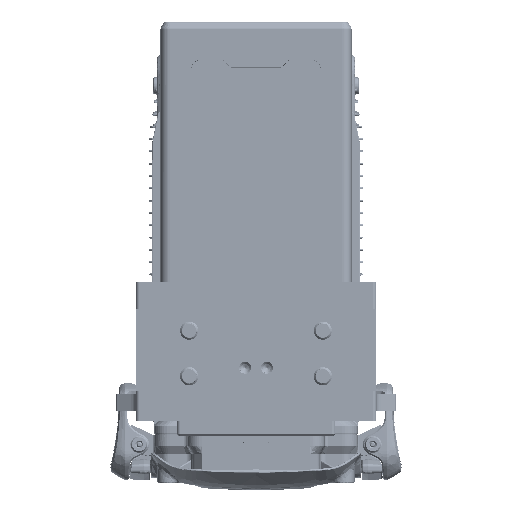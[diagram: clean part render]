
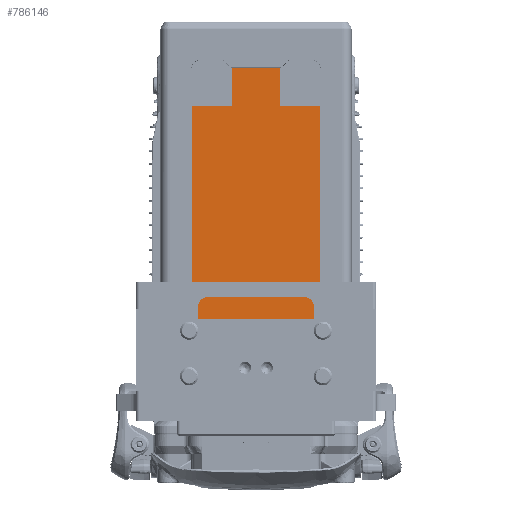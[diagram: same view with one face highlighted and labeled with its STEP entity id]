
A CAD part, front view. The second image highlights one B-rep face of the part: STEP entity #786146.
In plain terms, the highlighted planar face has unit normal (0, -1, 0) as drawn and (0, 1, 0) by its records, which use the part's own axes.
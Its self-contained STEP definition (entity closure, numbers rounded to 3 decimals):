
#785479=DIRECTION('',(0.,0.,1.));
#785480=VECTOR('',#785479,84.8);
#785481=CARTESIAN_POINT('',(-21.05,0.25,-51.));
#785482=LINE('',#785481,#785480);
#785636=DIRECTION('',(-1.,0.,0.));
#785637=VECTOR('',#785636,13.);
#785638=CARTESIAN_POINT('',(-8.05,0.25,33.8));
#785639=LINE('',#785638,#785637);
#785643=CARTESIAN_POINT('',(-18.25,0.25,-51.));
#785644=DIRECTION('',(0.,-1.,0.));
#785645=DIRECTION('',(-1.,0.,0.));
#785646=AXIS2_PLACEMENT_3D('',#785643,#785644,#785645);
#785651=DIRECTION('',(1.,0.,0.));
#785652=VECTOR('',#785651,36.5);
#785653=CARTESIAN_POINT('',(-18.25,0.25,-53.8));
#785654=LINE('',#785653,#785652);
#785658=CARTESIAN_POINT('',(18.25,0.25,-51.));
#785659=DIRECTION('',(0.,-1.,0.));
#785660=DIRECTION('',(0.,0.,-1.));
#785661=AXIS2_PLACEMENT_3D('',#785658,#785659,#785660);
#785666=DIRECTION('',(0.,0.,1.));
#785667=VECTOR('',#785666,84.8);
#785668=CARTESIAN_POINT('',(21.05,0.25,-51.));
#785669=LINE('',#785668,#785667);
#785673=DIRECTION('',(0.,0.,1.));
#785674=VECTOR('',#785673,12.55);
#785675=CARTESIAN_POINT('',(8.05,0.25,33.8));
#785676=LINE('',#785675,#785674);
#785680=CARTESIAN_POINT('',(7.868,0.25,47.94));
#785681=DIRECTION('',(0.,1.,0.));
#785682=DIRECTION('',(0.114,0.,-0.993));
#785683=AXIS2_PLACEMENT_3D('',#785680,#785681,#785682);
#785688=DIRECTION('',(-1.,0.,0.));
#785689=VECTOR('',#785688,15.735);
#785690=CARTESIAN_POINT('',(7.868,0.25,46.34));
#785691=LINE('',#785690,#785689);
#785695=CARTESIAN_POINT('',(-7.868,0.25,47.94));
#785696=DIRECTION('',(0.,1.,0.));
#785697=DIRECTION('',(0.,0.,-1.));
#785698=AXIS2_PLACEMENT_3D('',#785695,#785696,#785697);
#785703=DIRECTION('',(0.,0.,1.));
#785704=VECTOR('',#785703,12.55);
#785705=CARTESIAN_POINT('',(-8.05,0.25,33.8));
#785706=LINE('',#785705,#785704);
#785759=DIRECTION('',(1.,0.,0.));
#785760=VECTOR('',#785759,13.);
#785761=CARTESIAN_POINT('',(8.05,0.25,33.8));
#785762=LINE('',#785761,#785760);
#785837=CARTESIAN_POINT('',(-21.05,0.25,-51.));
#785838=VERTEX_POINT('',#785837);
#785839=CARTESIAN_POINT('',(-21.05,0.25,33.8));
#785840=VERTEX_POINT('',#785839);
#785841=CARTESIAN_POINT('',(-18.25,0.25,-53.8));
#785842=VERTEX_POINT('',#785841);
#785843=CARTESIAN_POINT('',(18.25,0.25,-53.8));
#785844=VERTEX_POINT('',#785843);
#785845=CARTESIAN_POINT('',(21.05,0.25,-51.));
#785846=VERTEX_POINT('',#785845);
#785847=CARTESIAN_POINT('',(21.05,0.25,33.8));
#785848=VERTEX_POINT('',#785847);
#785849=CARTESIAN_POINT('',(8.05,0.25,33.8));
#785850=VERTEX_POINT('',#785849);
#785851=CARTESIAN_POINT('',(-8.05,0.25,33.8));
#785852=CARTESIAN_POINT('',(-8.05,0.25,46.35));
#785853=VERTEX_POINT('',#785851);
#785854=VERTEX_POINT('',#785852);
#785855=CARTESIAN_POINT('',(8.05,0.25,46.35));
#785856=VERTEX_POINT('',#785855);
#785857=CARTESIAN_POINT('',(7.868,0.25,46.34));
#785858=VERTEX_POINT('',#785857);
#785859=CARTESIAN_POINT('',(-7.868,0.25,46.34));
#785860=VERTEX_POINT('',#785859);
#786122=CARTESIAN_POINT('',(0.,0.25,0.));
#786123=DIRECTION('',(0.,1.,0.));
#786124=DIRECTION('',(1.,0.,0.));
#786125=AXIS2_PLACEMENT_3D('',#786122,#786123,#786124);
#786126=PLANE('',#786125);
#786128=ORIENTED_EDGE('',*,*,#786127,.F.);
#786130=ORIENTED_EDGE('',*,*,#786129,.T.);
#786131=ORIENTED_EDGE('',*,*,#785949,.F.);
#786132=ORIENTED_EDGE('',*,*,#785964,.T.);
#786133=ORIENTED_EDGE('',*,*,#785977,.T.);
#786134=ORIENTED_EDGE('',*,*,#785992,.T.);
#786135=ORIENTED_EDGE('',*,*,#786007,.T.);
#786137=ORIENTED_EDGE('',*,*,#786136,.F.);
#786139=ORIENTED_EDGE('',*,*,#786138,.T.);
#786140=ORIENTED_EDGE('',*,*,#786101,.T.);
#786141=ORIENTED_EDGE('',*,*,#786113,.T.);
#786143=ORIENTED_EDGE('',*,*,#786142,.T.);
#786144=EDGE_LOOP('',(#786128,#786130,#786131,#786132,#786133,#786134,#786135,
#786137,#786139,#786140,#786141,#786143));
#786145=FACE_OUTER_BOUND('',#786144,.F.);
#786146=ADVANCED_FACE('',(#786145),#786126,.T.);
#785647=CIRCLE('',#785646,2.8);
#785662=CIRCLE('',#785661,2.8);
#785684=CIRCLE('',#785683,1.6);
#785699=CIRCLE('',#785698,1.6);
#785949=EDGE_CURVE('',#785838,#785840,#785482,.T.);
#785964=EDGE_CURVE('',#785838,#785842,#785647,.T.);
#785977=EDGE_CURVE('',#785842,#785844,#785654,.T.);
#785992=EDGE_CURVE('',#785844,#785846,#785662,.T.);
#786007=EDGE_CURVE('',#785846,#785848,#785669,.T.);
#786101=EDGE_CURVE('',#785856,#785858,#785684,.T.);
#786113=EDGE_CURVE('',#785858,#785860,#785691,.T.);
#786127=EDGE_CURVE('',#785853,#785854,#785706,.T.);
#786129=EDGE_CURVE('',#785853,#785840,#785639,.T.);
#786136=EDGE_CURVE('',#785850,#785848,#785762,.T.);
#786138=EDGE_CURVE('',#785850,#785856,#785676,.T.);
#786142=EDGE_CURVE('',#785860,#785854,#785699,.T.);
